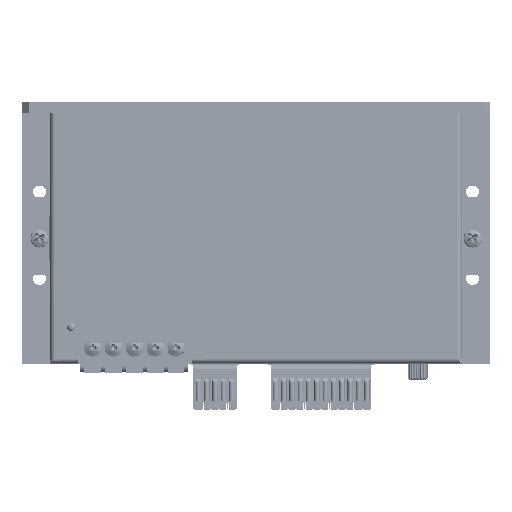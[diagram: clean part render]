
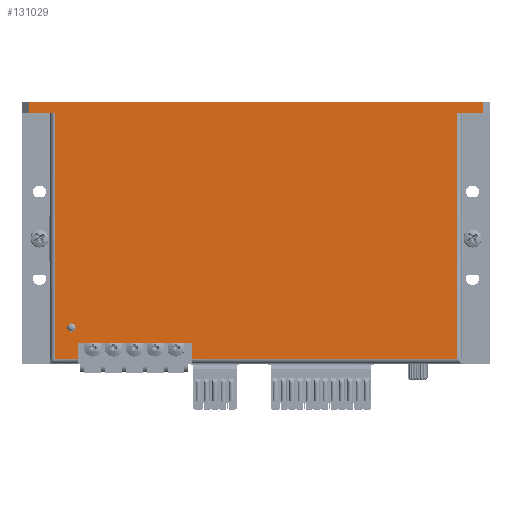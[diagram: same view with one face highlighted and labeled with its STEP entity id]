
A CAD part, front view. The second image highlights one B-rep face of the part: STEP entity #131029.
In plain terms, the highlighted planar face has unit normal (0, -1, 0).
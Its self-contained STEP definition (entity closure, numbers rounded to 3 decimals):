
#5606 = CARTESIAN_POINT ( 'NONE',  ( 57.177, -9.055, -36.75 ) ) ;
#6683 = LINE ( 'NONE', #218035, #58488 ) ;
#9190 = VECTOR ( 'NONE', #161804, 1000. ) ;
#9432 = ORIENTED_EDGE ( 'NONE', *, *, #214863, .T. ) ;
#16595 = DIRECTION ( 'NONE',  ( 0., 0., 1. ) ) ;
#20418 = DIRECTION ( 'NONE',  ( 0., 0., -1. ) ) ;
#26588 = CARTESIAN_POINT ( 'NONE',  ( 58.677, -9.055, -38.25 ) ) ;
#26689 = VECTOR ( 'NONE', #271044, 1000. ) ;
#29280 = LINE ( 'NONE', #213199, #251972 ) ;
#31329 = CARTESIAN_POINT ( 'NONE',  ( -65.623, -9.055, 38.25 ) ) ;
#38598 = ORIENTED_EDGE ( 'NONE', *, *, #74188, .F. ) ;
#40577 = VECTOR ( 'NONE', #268773, 1000. ) ;
#42698 = LINE ( 'NONE', #327990, #52556 ) ;
#48563 = LINE ( 'NONE', #100152, #225758 ) ;
#51395 = EDGE_CURVE ( 'NONE', #230671, #194064, #329356, .T. ) ;
#52556 = VECTOR ( 'NONE', #274767, 1000. ) ;
#57406 = PLANE ( 'NONE',  #110451 ) ;
#58488 = VECTOR ( 'NONE', #238659, 1000. ) ;
#59159 = ORIENTED_EDGE ( 'NONE', *, *, #99572, .F. ) ;
#61353 = VERTEX_POINT ( 'NONE', #225467 ) ;
#62567 = DIRECTION ( 'NONE',  ( 0., 0., -1. ) ) ;
#65234 = ORIENTED_EDGE ( 'NONE', *, *, #51395, .T. ) ;
#72794 = ORIENTED_EDGE ( 'NONE', *, *, #97822, .F. ) ;
#74188 = EDGE_CURVE ( 'NONE', #314245, #61353, #89006, .T. ) ;
#77049 = CIRCLE ( 'NONE', #269141, 1.25 ) ;
#81537 = FACE_BOUND ( 'NONE', #292103, .T. ) ;
#82762 = ORIENTED_EDGE ( 'NONE', *, *, #255155, .T. ) ;
#84918 = DIRECTION ( 'NONE',  ( 0., 0., -1. ) ) ;
#85905 = AXIS2_PLACEMENT_3D ( 'NONE', #152734, #338191, #20418 ) ;
#89006 = LINE ( 'NONE', #142282, #163551 ) ;
#95619 = EDGE_LOOP ( 'NONE', ( #333209, #148940, #82762, #38598, #9432, #65234, #301350, #72794, #97819, #120740, #107969, #206348 ) ) ;
#97819 = ORIENTED_EDGE ( 'NONE', *, *, #293900, .T. ) ;
#97822 = EDGE_CURVE ( 'NONE', #195245, #281164, #29280, .T. ) ;
#99572 = EDGE_CURVE ( 'NONE', #191644, #265541, #77049, .T. ) ;
#100152 = CARTESIAN_POINT ( 'NONE',  ( -23.823, -9.055, -32.05 ) ) ;
#101559 = CARTESIAN_POINT ( 'NONE',  ( 65.277, -9.055, 38.25 ) ) ;
#102941 = LINE ( 'NONE', #278292, #238421 ) ;
#106851 = CARTESIAN_POINT ( 'NONE',  ( -73.723, -9.055, 38.25 ) ) ;
#107969 = ORIENTED_EDGE ( 'NONE', *, *, #138482, .F. ) ;
#110397 = LINE ( 'NONE', #273502, #110994 ) ;
#110451 = AXIS2_PLACEMENT_3D ( 'NONE', #26588, #215553, #84918 ) ;
#110753 = CARTESIAN_POINT ( 'NONE',  ( -58.623, -9.055, -32.05 ) ) ;
#110994 = VECTOR ( 'NONE', #294137, 1000. ) ;
#112491 = LINE ( 'NONE', #138264, #145131 ) ;
#120740 = ORIENTED_EDGE ( 'NONE', *, *, #144700, .T. ) ;
#131029 = ADVANCED_FACE ( 'NONE', ( #81537, #289430 ), #57406, .T. ) ;
#132159 = VERTEX_POINT ( 'NONE', #234791 ) ;
#137161 = EDGE_CURVE ( 'NONE', #132159, #277379, #48563, .T. ) ;
#138264 = CARTESIAN_POINT ( 'NONE',  ( -65.623, -9.055, 38.25 ) ) ;
#138482 = EDGE_CURVE ( 'NONE', #146469, #329794, #110397, .T. ) ;
#142282 = CARTESIAN_POINT ( 'NONE',  ( 67.277, -9.055, 38.25 ) ) ;
#144700 = EDGE_CURVE ( 'NONE', #219221, #329794, #102941, .T. ) ;
#145131 = VECTOR ( 'NONE', #62567, 1000. ) ;
#146469 = VERTEX_POINT ( 'NONE', #167295 ) ;
#148893 = CARTESIAN_POINT ( 'NONE',  ( 57.177, -9.055, -36.75 ) ) ;
#148940 = ORIENTED_EDGE ( 'NONE', *, *, #299473, .T. ) ;
#152734 = CARTESIAN_POINT ( 'NONE',  ( -60.623, -9.055, -27.25 ) ) ;
#155547 = CARTESIAN_POINT ( 'NONE',  ( -23.823, -9.055, -32.05 ) ) ;
#161804 = DIRECTION ( 'NONE',  ( 1., 0., 0. ) ) ;
#163551 = VECTOR ( 'NONE', #271128, 1000. ) ;
#167295 = CARTESIAN_POINT ( 'NONE',  ( -58.623, -9.055, -32.05 ) ) ;
#191644 = VERTEX_POINT ( 'NONE', #262684 ) ;
#194064 = VERTEX_POINT ( 'NONE', #283970 ) ;
#195245 = VERTEX_POINT ( 'NONE', #31329 ) ;
#201369 = CARTESIAN_POINT ( 'NONE',  ( -58.623, -9.055, -36.75 ) ) ;
#206060 = DIRECTION ( 'NONE',  ( 1., 0., 0. ) ) ;
#206348 = ORIENTED_EDGE ( 'NONE', *, *, #292869, .F. ) ;
#213199 = CARTESIAN_POINT ( 'NONE',  ( 67.277, -9.055, 38.25 ) ) ;
#214863 = EDGE_CURVE ( 'NONE', #314245, #230671, #42698, .T. ) ;
#215553 = DIRECTION ( 'NONE',  ( 0., -1., 0. ) ) ;
#216177 = VECTOR ( 'NONE', #16595, 1000. ) ;
#218035 = CARTESIAN_POINT ( 'NONE',  ( -73.723, -9.055, -38.25 ) ) ;
#219221 = VERTEX_POINT ( 'NONE', #230362 ) ;
#225467 = CARTESIAN_POINT ( 'NONE',  ( 57.177, -9.055, 38.25 ) ) ;
#225758 = VECTOR ( 'NONE', #229042, 1000. ) ;
#229042 = DIRECTION ( 'NONE',  ( 0., 0., 1. ) ) ;
#230362 = CARTESIAN_POINT ( 'NONE',  ( -65.623, -9.055, -36.75 ) ) ;
#230671 = VERTEX_POINT ( 'NONE', #305212 ) ;
#234791 = CARTESIAN_POINT ( 'NONE',  ( -23.823, -9.055, -36.75 ) ) ;
#234815 = DIRECTION ( 'NONE',  ( 0., 0., -1. ) ) ;
#238421 = VECTOR ( 'NONE', #206060, 1000. ) ;
#238659 = DIRECTION ( 'NONE',  ( 0., 0., -1. ) ) ;
#240125 = VERTEX_POINT ( 'NONE', #5606 ) ;
#248660 = CARTESIAN_POINT ( 'NONE',  ( -75.723, -9.055, 41.75 ) ) ;
#251972 = VECTOR ( 'NONE', #317946, 1000. ) ;
#253665 = LINE ( 'NONE', #148893, #216177 ) ;
#255155 = EDGE_CURVE ( 'NONE', #240125, #61353, #253665, .T. ) ;
#262684 = CARTESIAN_POINT ( 'NONE',  ( -60.623, -9.055, -28.5 ) ) ;
#265541 = VERTEX_POINT ( 'NONE', #307481 ) ;
#268773 = DIRECTION ( 'NONE',  ( -1., 0., 0. ) ) ;
#269141 = AXIS2_PLACEMENT_3D ( 'NONE', #318884, #339588, #234815 ) ;
#271044 = DIRECTION ( 'NONE',  ( -1., 0., 0. ) ) ;
#271128 = DIRECTION ( 'NONE',  ( -1., 0., 0. ) ) ;
#272859 = EDGE_CURVE ( 'NONE', #265541, #191644, #283301, .T. ) ;
#273502 = CARTESIAN_POINT ( 'NONE',  ( -58.623, -9.055, -38.25 ) ) ;
#274767 = DIRECTION ( 'NONE',  ( 0., 0., 1. ) ) ;
#277379 = VERTEX_POINT ( 'NONE', #155547 ) ;
#278292 = CARTESIAN_POINT ( 'NONE',  ( -67.123, -9.055, -36.75 ) ) ;
#281164 = VERTEX_POINT ( 'NONE', #106851 ) ;
#283301 = CIRCLE ( 'NONE', #85905, 1.25 ) ;
#283970 = CARTESIAN_POINT ( 'NONE',  ( -73.723, -9.055, 41.75 ) ) ;
#289430 = FACE_OUTER_BOUND ( 'NONE', #95619, .T. ) ;
#292103 = EDGE_LOOP ( 'NONE', ( #59159, #330152 ) ) ;
#292354 = LINE ( 'NONE', #337126, #9190 ) ;
#292869 = EDGE_CURVE ( 'NONE', #277379, #146469, #297913, .T. ) ;
#293900 = EDGE_CURVE ( 'NONE', #195245, #219221, #112491, .T. ) ;
#294137 = DIRECTION ( 'NONE',  ( 0., 0., -1. ) ) ;
#296350 = EDGE_CURVE ( 'NONE', #194064, #281164, #6683, .T. ) ;
#297913 = LINE ( 'NONE', #110753, #40577 ) ;
#299473 = EDGE_CURVE ( 'NONE', #132159, #240125, #292354, .T. ) ;
#301350 = ORIENTED_EDGE ( 'NONE', *, *, #296350, .T. ) ;
#305212 = CARTESIAN_POINT ( 'NONE',  ( 65.277, -9.055, 41.75 ) ) ;
#307481 = CARTESIAN_POINT ( 'NONE',  ( -60.623, -9.055, -26. ) ) ;
#314245 = VERTEX_POINT ( 'NONE', #101559 ) ;
#317946 = DIRECTION ( 'NONE',  ( -1., 0., 0. ) ) ;
#318884 = CARTESIAN_POINT ( 'NONE',  ( -60.623, -9.055, -27.25 ) ) ;
#327990 = CARTESIAN_POINT ( 'NONE',  ( 65.277, -9.055, -38.25 ) ) ;
#329356 = LINE ( 'NONE', #248660, #26689 ) ;
#329794 = VERTEX_POINT ( 'NONE', #201369 ) ;
#330152 = ORIENTED_EDGE ( 'NONE', *, *, #272859, .F. ) ;
#333209 = ORIENTED_EDGE ( 'NONE', *, *, #137161, .F. ) ;
#337126 = CARTESIAN_POINT ( 'NONE',  ( -67.123, -9.055, -36.75 ) ) ;
#338191 = DIRECTION ( 'NONE',  ( 0., -1., 0. ) ) ;
#339588 = DIRECTION ( 'NONE',  ( 0., -1., 0. ) ) ;
